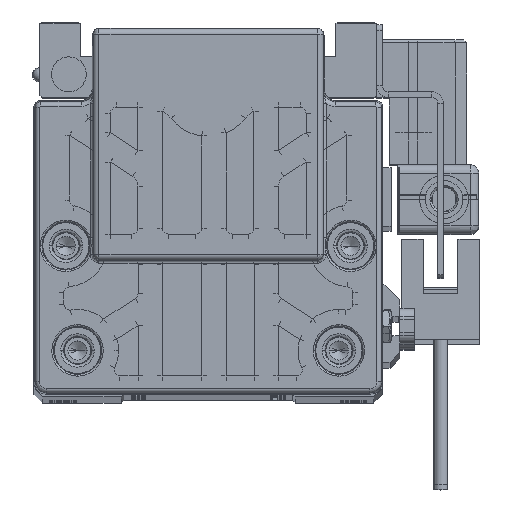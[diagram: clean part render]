
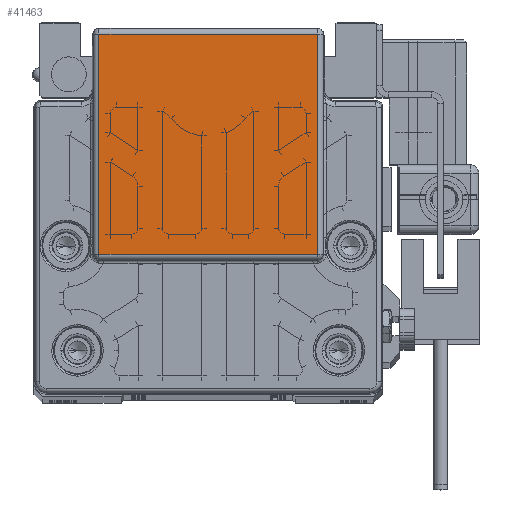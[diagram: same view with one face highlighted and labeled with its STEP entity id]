
A CAD part, top view. The second image highlights one B-rep face of the part: STEP entity #41463.
In plain terms, the highlighted planar face has unit normal (0, 0, 1) as drawn and (0, 0, -1) by its records, which use the part's own axes.
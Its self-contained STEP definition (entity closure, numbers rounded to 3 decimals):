
#888 = VERTEX_POINT ( 'NONE', #65469 ) ;
#2557 = ORIENTED_EDGE ( 'NONE', *, *, #4118, .T. ) ;
#4118 = EDGE_CURVE ( 'NONE', #888, #16353, #39178, .T. ) ;
#6328 = CARTESIAN_POINT ( 'NONE',  ( 19., 24.5, -143. ) ) ;
#11543 = PLANE ( 'NONE',  #30932 ) ;
#14170 = CARTESIAN_POINT ( 'NONE',  ( 19., 24.518, -143. ) ) ;
#14976 = EDGE_CURVE ( 'NONE', #29007, #37002, #30085, .T. ) ;
#16052 = VECTOR ( 'NONE', #39499, 1000. ) ;
#16353 = VERTEX_POINT ( 'NONE', #61952 ) ;
#16896 = CARTESIAN_POINT ( 'NONE',  ( -18.808, 31., -143. ) ) ;
#19347 = VECTOR ( 'NONE', #29779, 1000. ) ;
#21558 = LINE ( 'NONE', #43097, #46313 ) ;
#23541 = CARTESIAN_POINT ( 'NONE',  ( 19., 62.447, -143. ) ) ;
#24337 = EDGE_LOOP ( 'NONE', ( #48877, #54012, #34994, #2557 ) ) ;
#27482 = DIRECTION ( 'NONE',  ( 0., 0., -1. ) ) ;
#27795 = DIRECTION ( 'NONE',  ( 0., 1., 0. ) ) ;
#29007 = VERTEX_POINT ( 'NONE', #30990 ) ;
#29779 = DIRECTION ( 'NONE',  ( 1., 0., 0. ) ) ;
#30085 = LINE ( 'NONE', #14170, #16052 ) ;
#30932 = AXIS2_PLACEMENT_3D ( 'NONE', #6328, #27482, #48680 ) ;
#30990 = CARTESIAN_POINT ( 'NONE',  ( -18.808, 24.518, -143. ) ) ;
#33188 = LINE ( 'NONE', #16896, #46451 ) ;
#34994 = ORIENTED_EDGE ( 'NONE', *, *, #39463, .F. ) ;
#37002 = VERTEX_POINT ( 'NONE', #63734 ) ;
#39178 = LINE ( 'NONE', #23541, #19347 ) ;
#39463 = EDGE_CURVE ( 'NONE', #888, #29007, #33188, .T. ) ;
#39499 = DIRECTION ( 'NONE',  ( 1., 0., 0. ) ) ;
#41463 = ADVANCED_FACE ( 'NONE', ( #64270 ), #11543, .T. ) ;
#43097 = CARTESIAN_POINT ( 'NONE',  ( 18.808, 24.5, -143. ) ) ;
#46313 = VECTOR ( 'NONE', #27795, 1000. ) ;
#46451 = VECTOR ( 'NONE', #48837, 1000. ) ;
#48680 = DIRECTION ( 'NONE',  ( 0., 1., 0. ) ) ;
#48837 = DIRECTION ( 'NONE',  ( 0., -1., 0. ) ) ;
#48877 = ORIENTED_EDGE ( 'NONE', *, *, #61123, .F. ) ;
#54012 = ORIENTED_EDGE ( 'NONE', *, *, #14976, .F. ) ;
#61123 = EDGE_CURVE ( 'NONE', #37002, #16353, #21558, .T. ) ;
#61952 = CARTESIAN_POINT ( 'NONE',  ( 18.808, 62.447, -143. ) ) ;
#63734 = CARTESIAN_POINT ( 'NONE',  ( 18.808, 24.518, -143. ) ) ;
#64270 = FACE_OUTER_BOUND ( 'NONE', #24337, .T. ) ;
#65469 = CARTESIAN_POINT ( 'NONE',  ( -18.808, 62.447, -143. ) ) ;
